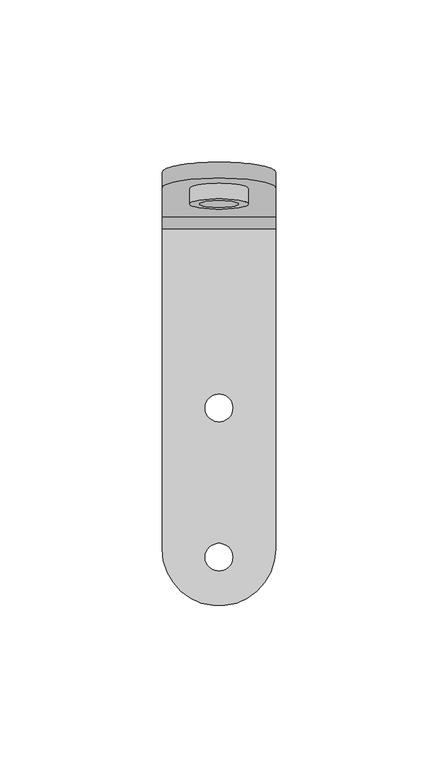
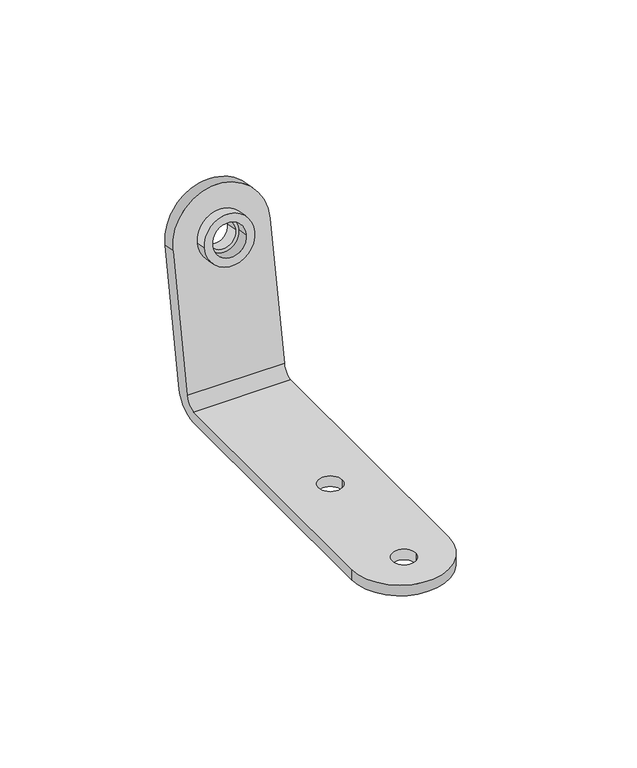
"""IFC4 building model written with IfcOpenShell, lengths in millimetres: proxy geometry, d&b xS-Series 42S l 44S Horizontal Bracket : 42S l 44S Horizontal Bracket."""

import ifcopenshell
import ifcopenshell.guid

model = None  # the IFC model being written
_history = None  # IfcOwnerHistory: only IFC2X3 demands one
_inside = {}  # id of a spatial element -> (the spatial element, [elements in it])
_under = {}  # id of a project, library or spatial element -> (it, [spatial elements below it])
_declared = {}  # id of a project -> (the project, [libraries it declares])
_typed = {}  # id of a type object -> (the type object, [elements of that type])
_made_of = {}  # id of a material, layer set ... -> (it, [elements and type objects made of it])


def new_model(schema):
    """Start an empty IFC model of exactly this schema.

    Asked for "IFC4X3", IfcOpenShell would pick the latest addendum, in which some entities
    have other attributes; the version numbers below select the first issue.
    IFC2X3 requires an IfcOwnerHistory on every rooted entity: one is made here for all.
    """
    global model, _history
    if schema == "IFC4X3":
        model = ifcopenshell.file(schema_version=(4, 3, 0, 0))
    else:
        model = ifcopenshell.file(schema=schema)
    _inside.clear()
    _under.clear()
    _declared.clear()
    _typed.clear()
    _made_of.clear()
    _history = None
    if model.schema == "IFC2X3":
        org = make("IfcOrganization", Name="unknown")
        user = make(
            "IfcPersonAndOrganization",
            ThePerson=make("IfcPerson", FamilyName="unknown"),
            TheOrganization=org,
        )
        app = make(
            "IfcApplication",
            ApplicationDeveloper=org,
            Version="unknown",
            ApplicationFullName="unknown",
            ApplicationIdentifier="unknown",
        )
        _history = make(
            "IfcOwnerHistory",
            OwningUser=user,
            OwningApplication=app,
            ChangeAction="ADDED",
            CreationDate=0,
        )
    return model


def make(cls, **values):
    """One entity of the class cls with the attributes given. An attribute that is None is left unset."""
    return model.create_entity(
        cls, **{name: value for name, value in values.items() if value is not None}
    )


def rooted(cls, **values):
    """An entity with a GlobalId (a new one), such as an element, a storey or a relation."""
    return make(cls, GlobalId=ifcopenshell.guid.new(), OwnerHistory=_history, **values)


def si_unit(unit_type, name, prefix=None):
    """IfcSIUnit, for example si_unit("LENGTHUNIT", "METRE", prefix="MILLI")."""
    return make("IfcSIUnit", UnitType=unit_type, Prefix=prefix, Name=name)


def assignment(units):
    """IfcUnitAssignment: the units of a project."""
    return None if units is None else make("IfcUnitAssignment", Units=units)


def point(xyz):
    """IfcCartesianPoint."""
    return None if xyz is None else make("IfcCartesianPoint", Coordinates=xyz)


def direction(xyz):
    """IfcDirection."""
    return None if xyz is None else make("IfcDirection", DirectionRatios=xyz)


def frame(location, z_axis=None, x_axis=None):
    """IfcAxis2Placement3D, a coordinate frame: its origin and axes. An axis left out is left unset."""
    return make(
        "IfcAxis2Placement3D",
        Location=point(location),
        Axis=direction(z_axis),
        RefDirection=direction(x_axis),
    )


def frame_2d(location, x_axis=None):
    """IfcAxis2Placement2D, a coordinate frame in the plane: its origin and x axis."""
    return make(
        "IfcAxis2Placement2D", Location=point(location), RefDirection=direction(x_axis)
    )


def origin():
    """The frame at (0, 0, 0) with its axes left unset."""
    return frame((0.0, 0.0, 0.0))


def place(relative_to, where):
    """IfcLocalPlacement: puts the frame where relative to a parent placement (None: the world)."""
    return make(
        "IfcLocalPlacement", PlacementRelTo=relative_to, RelativePlacement=where
    )


def context(
    kind, dimensions, precision=None, world=None, true_north=None, identifier=None
):
    """IfcGeometricRepresentationContext, for example the 3D "Model" context."""
    return make(
        "IfcGeometricRepresentationContext",
        ContextIdentifier=identifier,
        ContextType=kind,
        CoordinateSpaceDimension=dimensions,
        Precision=precision,
        WorldCoordinateSystem=world,
        TrueNorth=true_north,
    )


def project(units=None, contexts=None):
    """IfcProject with its units and contexts."""
    return rooted(
        "IfcProject",
        Name="project",
        RepresentationContexts=contexts,
        UnitsInContext=assignment(units),
    )


def spatial(cls, under=None, at=None, **own):
    """A site, building, storey or space (cls), placed at a placement, below another one or the project."""
    s = rooted(cls, ObjectPlacement=at, **own)
    if under is not None:
        _under.setdefault(under.id(), (under, []))[1].append(s)
    return s


def polyline(points):
    """IfcPolyline through the points."""
    return make("IfcPolyline", Points=[point(p) for p in points])


def circle_curve(where, radius):
    """IfcCircle in the frame where."""
    return make("IfcCircle", Position=where, Radius=radius)


def trimmed(basis, trim1, trim2, sense, master):
    """IfcTrimmedCurve: the piece of a basis curve between two trims."""
    return make(
        "IfcTrimmedCurve",
        BasisCurve=basis,
        Trim1=trim1,
        Trim2=trim2,
        SenseAgreement=sense,
        MasterRepresentation=master,
    )


def segment(curve, same_sense, transition):
    """IfcCompositeCurveSegment."""
    return make(
        "IfcCompositeCurveSegment",
        Transition=transition,
        SameSense=same_sense,
        ParentCurve=curve,
    )


def composite_curve(segments, self_intersect=None):
    """IfcCompositeCurve: segments joined end to end."""
    return make("IfcCompositeCurve", Segments=segments, SelfIntersect=self_intersect)


def outline(outer, holes=None, kind="AREA"):
    """IfcArbitraryClosedProfileDef: a profile drawn as a closed curve; with holes, ...WithVoids."""
    if holes is None:
        return make("IfcArbitraryClosedProfileDef", ProfileType=kind, OuterCurve=outer)
    return make(
        "IfcArbitraryProfileDefWithVoids",
        ProfileType=kind,
        OuterCurve=outer,
        InnerCurves=holes,
    )


def extrude(swept, where, along, depth):
    """IfcExtrudedAreaSolid: the profile swept, set in the frame where, extruded along a direction by depth."""
    return make(
        "IfcExtrudedAreaSolid",
        SweptArea=swept,
        Position=where,
        ExtrudedDirection=direction(along),
        Depth=depth,
    )


def shape(context_of_items, identifier, shape_type, items):
    """IfcShapeRepresentation: the items that make up one representation, for example the "Body"."""
    return make(
        "IfcShapeRepresentation",
        ContextOfItems=context_of_items,
        RepresentationIdentifier=identifier,
        RepresentationType=shape_type,
        Items=items,
    )


def source(mapping_origin, context_of_items, identifier, shape_type, items):
    """IfcRepresentationMap: a shape defined once, which mapped items show again and again."""
    return make(
        "IfcRepresentationMap",
        MappingOrigin=mapping_origin,
        MappedRepresentation=shape(context_of_items, identifier, shape_type, items),
    )


def transform(
    local_origin,
    x_axis=None,
    y_axis=None,
    z_axis=None,
    scale=None,
    scale2=None,
    scale3=None,
    uniform=True,
):
    """IfcCartesianTransformationOperator3D, or its non-uniform kind. x_axis, y_axis, z_axis: its Axis1, 2, 3."""
    if uniform:
        return make(
            "IfcCartesianTransformationOperator3D",
            Axis1=direction(x_axis),
            Axis2=direction(y_axis),
            LocalOrigin=point(local_origin),
            Scale=scale,
            Axis3=direction(z_axis),
        )
    return make(
        "IfcCartesianTransformationOperator3DnonUniform",
        Axis1=direction(x_axis),
        Axis2=direction(y_axis),
        LocalOrigin=point(local_origin),
        Scale=scale,
        Axis3=direction(z_axis),
        Scale2=scale2,
        Scale3=scale3,
    )


def mapped(mapping_source, mapping_target):
    """IfcMappedItem: shows the shape of a source again, moved by a transform."""
    return make(
        "IfcMappedItem", MappingSource=mapping_source, MappingTarget=mapping_target
    )


def made_of(thing, what):
    """Note that an element or type object is made of a material, layer set ...; save() writes the relation."""
    if what is not None:
        _made_of.setdefault(what.id(), (what, []))[1].append(thing)
    return thing


def element(
    cls,
    number,
    at=None,
    inside=None,
    cuts=None,
    type_object=None,
    material=None,
    context=None,
    identifier="Body",
    shape_type=None,
    held_by="IfcProductDefinitionShape",
    body=None,
    shapes=None,
    **own,
):
    """One element of the class cls, such as IfcWall. Its Tag is "e" and its number.

    at: its placement. inside: the storey or other place that contains it. cuts: it is an
    opening in that element (IfcRelVoidsElement). A single representation is given by context,
    identifier, shape_type and body (its items); several are given by shapes. held_by: the class
    of the entity that holds the representations. save() writes the other relations.
    """
    e = rooted(cls, Tag="e%d" % number, ObjectPlacement=at, **own)
    if body is not None:
        shapes = [shape(context, identifier, shape_type, body)]
    if shapes is not None:
        e.Representation = make(held_by, Representations=shapes)
    if inside is not None:
        _inside.setdefault(inside.id(), (inside, []))[1].append(e)
    if cuts is not None:
        rooted(
            "IfcRelVoidsElement", RelatingBuildingElement=cuts, RelatedOpeningElement=e
        )
    if type_object is not None:
        _typed.setdefault(type_object.id(), (type_object, []))[1].append(e)
    return made_of(e, material)


def aggregate(whole, parts):
    """IfcRelAggregates: a whole, such as a stair, and the parts it consists of."""
    return rooted("IfcRelAggregates", RelatingObject=whole, RelatedObjects=parts)


def save(model, path):
    """Write the relations noted so far, then the file.

    IfcRelAggregates (storeys below a building ...), IfcRelContainedInSpatialStructure (elements
    in a storey), IfcRelDefinesByType, IfcRelAssociatesMaterial and IfcRelDeclares: one each for
    every whole, place, type object, material and project.
    """
    for whole, parts in _under.values():
        aggregate(whole, parts)
    for where, things in _inside.values():
        rooted(
            "IfcRelContainedInSpatialStructure",
            RelatedElements=things,
            RelatingStructure=where,
        )
    for kind, things in _typed.values():
        rooted("IfcRelDefinesByType", RelatedObjects=things, RelatingType=kind)
    for what, things in _made_of.values():
        rooted("IfcRelAssociatesMaterial", RelatedObjects=things, RelatingMaterial=what)
    for by, libraries in _declared.values():
        rooted("IfcRelDeclares", RelatingContext=by, RelatedDefinitions=libraries)
    model.write(path)


def plane_surface(at):
    """IfcPlane: the flat surface through the origin of the frame at, square to its z axis."""
    return make("IfcPlane", Position=at)


def cylinder_surface(at, radius):
    """IfcCylindricalSurface: all points at the distance radius from the z axis of the frame at."""
    return make("IfcCylindricalSurface", Position=at, Radius=radius)


def revolved_surface(curve, axis_point, axis_direction):
    """IfcSurfaceOfRevolution: the curve turned about the line through axis_point along axis_direction."""
    return make(
        "IfcSurfaceOfRevolution",
        SweptCurve=make("IfcArbitraryOpenProfileDef", ProfileType="CURVE", Curve=curve),
        AxisPosition=make("IfcAxis1Placement", Location=point(axis_point), Axis=direction(axis_direction)),
    )


def advanced_brep(points, edges, surfaces, faces):
    """IfcAdvancedBrep: a solid bounded by faces that lie on surfaces and meet in shared edges.

    An edge is (start, end): straight between two places in points (the first is 0);
    or (start, end, curve); or (start, end, curve, False) where it runs against its curve.
    A face is (place in surfaces, loops), or (place, loops, False) where it looks against
    its surface's normal. A loop lists edges by number (the first is 1), with a minus sign
    where the edge is run from its end to its start. The first loop is the outer one.
    """
    corners = [point(p) for p in points]
    vertices = [make("IfcVertexPoint", VertexGeometry=c) for c in corners]
    made = []
    for start, end, *more in edges:
        made.append(
            make(
                "IfcEdgeCurve",
                EdgeStart=vertices[start],
                EdgeEnd=vertices[end],
                EdgeGeometry=more[0] if more else make("IfcPolyline", Points=[corners[start], corners[end]]),
                SameSense=more[1] if len(more) > 1 else True,
            )
        )
    hull = []
    for where, loops, *sense in faces:
        bounds = []
        for j, loop in enumerate(loops):
            ring = [make("IfcOrientedEdge", EdgeElement=made[abs(k) - 1], Orientation=k > 0) for k in loop]
            bounds.append(
                make(
                    "IfcFaceOuterBound" if j == 0 else "IfcFaceBound",
                    Bound=make("IfcEdgeLoop", EdgeList=ring),
                    Orientation=True,
                )
            )
        hull.append(make("IfcAdvancedFace", Bounds=bounds, FaceSurface=surfaces[where], SameSense=sense[0] if sense else True))
    return make("IfcAdvancedBrep", Outer=make("IfcClosedShell", CfsFaces=hull))


def communication_devices_90d3ba4c(model_context):
    return source(origin(), model_context, "Body", "SolidModel", [
        advanced_brep(
        [(17.5, -20.5, 0.0), (17.5, 78.0, 0.0), (-17.5, 78.0, 0.0), (-17.5, -20.5, 0.0), (-4.25, 23.0, 0.0), (4.25, 23.0, 0.0), (-4.25, -23.0, 0.0), (4.25, -23.0, 0.0), (17.5, -20.5, -4.0), (-17.5, -20.5, -4.0), (-17.5, 78.0, -4.0), (17.5, 78.0, -4.0), (-4.25, 23.0, -4.0), (4.25, 23.0, -4.0), (-4.25, -23.0, -4.0), (4.25, -23.0, -4.0), (17.5, 86.9240388, 3.1317591), (17.5, 95.6932717, 52.8645506), (17.5, 90.769233, 53.7327915), (17.5, 82.0, 4.0), (-17.5, 82.0, 4.0), (-17.5, 90.769233, 53.7327915), (-17.5, 95.6932717, 52.8645506), (-17.5, 86.9240388, 3.1317591), (-5.0, 95.6932717, 52.8645506), (5.0, 95.6932717, 52.8645506), (-5.0, 90.769233, 53.7327915), (5.0, 90.769233, 53.7327915)],
        [
            (0, 1),
            (1, 2),
            (2, 3),
            (3, 0, circle_curve(frame((0.0, -20.5, 0.0), z_axis=(0.0, 0.0, 1.0), x_axis=(1.0, 0.0, 0.0)), 17.5)),
            (4, 5, circle_curve(frame((0.0, 23.0, 0.0), z_axis=(0.0, 0.0, -1.0), x_axis=(1.0, 0.0, 0.0)), 4.25)),
            (5, 4, circle_curve(frame((0.0, 23.0, 0.0), z_axis=(0.0, 0.0, -1.0), x_axis=(1.0, 0.0, 0.0)), 4.25)),
            (6, 7, circle_curve(frame((0.0, -23.0, 0.0), z_axis=(0.0, 0.0, -1.0), x_axis=(1.0, 0.0, 0.0)), 4.25)),
            (7, 6, circle_curve(frame((0.0, -23.0, 0.0), z_axis=(0.0, 0.0, -1.0), x_axis=(1.0, 0.0, 0.0)), 4.25)),
            (8, 9, circle_curve(frame((0.0, -20.5, -4.0), z_axis=(0.0, 0.0, -1.0), x_axis=(1.0, 0.0, 0.0)), 17.5)),
            (9, 10),
            (10, 11),
            (11, 8),
            (12, 13, circle_curve(frame((0.0, 23.0, -4.0), z_axis=(0.0, 0.0, 1.0), x_axis=(1.0, 0.0, 0.0)), 4.25)),
            (13, 12, circle_curve(frame((0.0, 23.0, -4.0), z_axis=(0.0, 0.0, 1.0), x_axis=(1.0, 0.0, 0.0)), 4.25)),
            (14, 15, circle_curve(frame((0.0, -23.0, -4.0), z_axis=(0.0, 0.0, 1.0), x_axis=(1.0, 0.0, 0.0)), 4.25)),
            (15, 14, circle_curve(frame((0.0, -23.0, -4.0), z_axis=(0.0, 0.0, 1.0), x_axis=(1.0, 0.0, 0.0)), 4.25)),
            (0, 8),
            (11, 16, circle_curve(frame((17.5, 78.0, 5.1492473), z_axis=(1.0, 0.0, 0.0), x_axis=(0.0, -1.0, 0.0)), 9.1492473)),
            (16, 17),
            (17, 18),
            (18, 19),
            (19, 1, circle_curve(frame((17.5, 77.143704, 4.856296), z_axis=(-1.0, 0.0, 0.0), x_axis=(0.0, -1.0, 0.0)), 4.9312122)),
            (2, 20, circle_curve(frame((-17.5, 77.143704, 4.856296), z_axis=(1.0, 0.0, 0.0), x_axis=(0.0, -1.0, 0.0)), 4.9312122)),
            (20, 21),
            (21, 22),
            (22, 23),
            (23, 10, circle_curve(frame((-17.5, 78.0, 5.1492473), z_axis=(-1.0, 0.0, 0.0), x_axis=(0.0, -1.0, 0.0)), 9.1492473)),
            (9, 3),
            (4, 12),
            (13, 5),
            (6, 14),
            (15, 7),
            (23, 16),
            (22, 17, circle_curve(frame((0.0, 95.6932717, 52.8645506), z_axis=(0.0, 0.9848077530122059, -0.17364817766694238), x_axis=(1.0, 0.0, 0.0)), 17.5)),
            (24, 25, circle_curve(frame((0.0, 95.6932717, 52.8645506), z_axis=(0.0, -0.9848077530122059, 0.17364817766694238), x_axis=(1.0, 0.0, 0.0)), 5.0)),
            (25, 24, circle_curve(frame((0.0, 95.6932717, 52.8645506), z_axis=(0.0, -0.9848077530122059, 0.17364817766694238), x_axis=(1.0, 0.0, 0.0)), 5.0)),
            (18, 21, circle_curve(frame((0.0, 90.769233, 53.7327915), z_axis=(0.0, -0.9848077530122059, 0.17364817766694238), x_axis=(1.0, 0.0, 0.0)), 17.5)),
            (20, 19),
            (26, 27, circle_curve(frame((0.0, 90.769233, 53.7327915), z_axis=(0.0, 0.9848077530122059, -0.17364817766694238), x_axis=(1.0, 0.0, 0.0)), 5.0)),
            (27, 26, circle_curve(frame((0.0, 90.769233, 53.7327915), z_axis=(0.0, 0.9848077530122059, -0.17364817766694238), x_axis=(1.0, 0.0, 0.0)), 5.0)),
            (24, 26),
            (27, 25),
        ],
        [
            plane_surface(frame((17.5, 78.0, 0.0), z_axis=(0.0, 0.0, 1.0), x_axis=(0.0, 1.0, 0.0))),
            plane_surface(frame((17.5, 78.0, -4.0), z_axis=(0.0, 0.0, -1.0), x_axis=(0.0, -1.0, 0.0))),
            plane_surface(frame((17.5, -20.5, 0.0), z_axis=(1.0, 0.0, 0.0), x_axis=(0.0, 0.0, -1.0))),
            plane_surface(frame((-17.5, 78.0, 0.0), z_axis=(-1.0, 0.0, 0.0), x_axis=(0.0, 0.0, -1.0))),
            cylinder_surface(frame((0.0, -20.5, -4.0), z_axis=(0.0, 0.0, 1.0), x_axis=(1.0, 0.0, 0.0)), 17.5),
            revolved_surface(polyline([(4.25, 23.0, -4.0), (4.25, 23.0, 0.0)]), (0.0, 23.0, 46.0), (0.0, 0.0, -1.0)),
            revolved_surface(polyline([(4.25, -23.0, -4.0), (4.25, -23.0, 0.0)]), (0.0, -23.0, 46.0), (0.0, 0.0, -1.0)),
            cylinder_surface(frame((-17.5, 78.0, 5.1492473), z_axis=(1.0, 0.0, 0.0), x_axis=(0.0, -1.0, 0.0)), 9.1492473),
            plane_surface(frame((17.5, 86.9240388, 3.1317591), z_axis=(0.0, 0.9848077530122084, -0.17364817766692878), x_axis=(0.0, -0.17364817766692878, -0.9848077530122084))),
            plane_surface(frame((17.5, 82.0, 4.0), z_axis=(0.0, -0.9848077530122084, 0.17364817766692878), x_axis=(0.0, 0.17364817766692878, 0.9848077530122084))),
            cylinder_surface(frame((0.0, 90.769233, 53.7327915), z_axis=(0.0, 0.9848077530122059, -0.17364817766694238), x_axis=(1.0, 0.0, 0.0)), 17.5),
            revolved_surface(polyline([(5.0, 90.769233, 53.7327915), (5.0, 95.69327170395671, 52.86455062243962)]), (0.0, 90.769233, 53.7327915), (0.0, -0.9848077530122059, 0.17364817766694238)),
            revolved_surface(polyline([(-17.5, 72.2124918, 4.856296), (17.5, 72.2124918, 4.856296)]), (-17.5, 77.143704, 4.856296), (-1.0, 0.0, 0.0)),
        ],
        [
            (0, [[1, 2, 3, 4], [5, 6], [7, 8]]),
            (1, [[9, 10, 11, 12], [13, 14], [15, 16]]),
            (2, [[-1, 17, -12, 18, 19, 20, 21, 22]]),
            (3, [[-3, 23, 24, 25, 26, 27, -10, 28]]),
            (4, [[-4, -28, -9, -17]]),
            (5, [[-5, 29, -14, 30]]),
            (5, [[-6, -30, -13, -29]]),
            (6, [[-7, 31, -16, 32]]),
            (6, [[-8, -32, -15, -31]]),
            (7, [[-18, -11, -27, 33]]),
            (8, [[-19, -33, -26, 34], [35, 36]]),
            (9, [[37, -24, 38, -21], [39, 40]]),
            (10, [[-34, -25, -37, -20]]),
            (11, [[-35, 41, -40, 42]]),
            (11, [[-36, -42, -39, -41]]),
            (12, [[-22, -38, -23, -2]]),
        ],
    ),
        extrude(outline(composite_curve([segment(trimmed(circle_curve(frame_2d((0.0, 6.0)), 9.0), [point((0.0, 15.0))], [point((0.0, -3.0))], False, "CARTESIAN"), True, "CONTINUOUS"), segment(trimmed(circle_curve(frame_2d((0.0, 6.0)), 9.0), [point((0.0, -3.0))], [point((0.0, 15.0))], False, "CARTESIAN"), True, "CONTINUOUS")], self_intersect=False), holes=[composite_curve([segment(trimmed(circle_curve(frame_2d((0.0, 6.0)), 6.0), [point((0.0, 12.0))], [point((0.0, 0.0))], True, "CARTESIAN"), True, "CONTINUOUS"), segment(trimmed(circle_curve(frame_2d((0.0, 6.0)), 6.0), [point((0.0, 0.0))], [point((0.0, 12.0))], True, "CARTESIAN"), True, "CONTINUOUS")], self_intersect=False)]), frame((6.0, 90.769233, 53.7327915), z_axis=(0.0, -0.9848077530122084, 0.17364817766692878), x_axis=(0.0, 0.17364817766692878, 0.9848077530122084)), (0.0, 0.0, 1.0), 5.0),
    ])


if __name__ == "__main__":
    model = new_model("IFC4")
    model_context = context("Model", 3, world=origin())
    ifc_project = project(units=[si_unit("LENGTHUNIT", "METRE", prefix="MILLI")], contexts=[model_context])
    site = spatial("IfcSite", under=ifc_project)
    building = spatial("IfcBuilding", under=site)
    placement = place(None, origin())
    communication_devices_shape = communication_devices_90d3ba4c(model_context)
    element("IfcBuildingElementProxy", 1, Name="d&b xS-Series 42S l 44S Horizontal Bracket : 42S l 44S Horizontal Bracket", ObjectType="d&b xS-Series 42S l 44S Horizontal Bracket : 42S l 44S Horizontal Bracket", at=placement, inside=building, context=model_context, shape_type="MappedRepresentation", body=[
        mapped(communication_devices_shape, transform((0.0, 0.0, 0.0), x_axis=(1.0, 0.0, 0.0), y_axis=(0.0, 1.0, 0.0), z_axis=(0.0, 0.0, 1.0))),
    ])
    save(model, "model.ifc")
